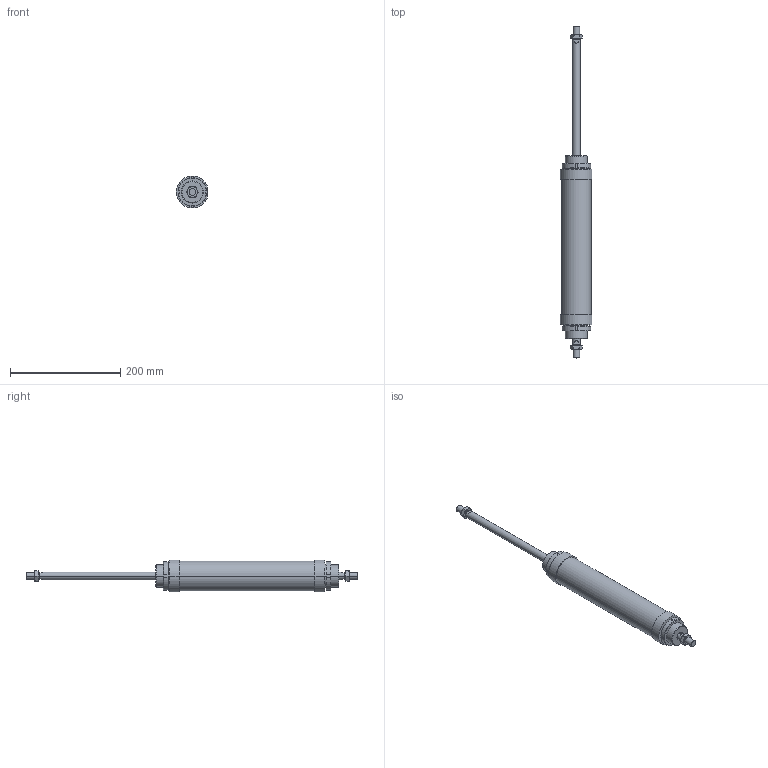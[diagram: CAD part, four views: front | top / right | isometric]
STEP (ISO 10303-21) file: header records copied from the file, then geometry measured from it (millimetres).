
FILE_DESCRIPTION((''),'2;1');
FILE_NAME('I:\DOC-EDP\Lib-3d\1200\CILINDRI\1262\1262_50_0200.stp','2003-04-02T19:16:13',('maffial1'),(''),'Autodesk Inventor (R) 6.0','Autodesk Inventor (R) 6.0','');
FILE_SCHEMA(('AUTOMOTIVE_DESIGN { 1 0 10303 214 1 1 1 1 }'));
Length unit declared in the file: millimetre
Products named in the file (5): 1262_50_0200; S1262_50_200; C1262_50_200; 1200_50_05; 1200_50_06
Assembly tree (6 placements, depth 2):
  1262_50_0200
    S1262_50_200
    C1262_50_200
    1200_50_05  x2
    1200_50_06  x2
Bounding box: 56.6 x 602 x 57.85 mm (x, y, z)
Volume: 776453 mm3; surface area: 112900.7 mm2
Topology: 6 solids, 6 shells, 182 faces, 424 edges, 264 vertices
Faces by surface type: plane 66, cone 56, cylinder 30, bspline 30
Entity records: 3737 total; most frequent: CARTESIAN_POINT 969, DIRECTION 572, ORIENTED_EDGE 548, EDGE_CURVE 274, AXIS2_PLACEMENT_3D 227, VERTEX_POINT 172, EDGE_LOOP 136, FACE_OUTER_BOUND 120
